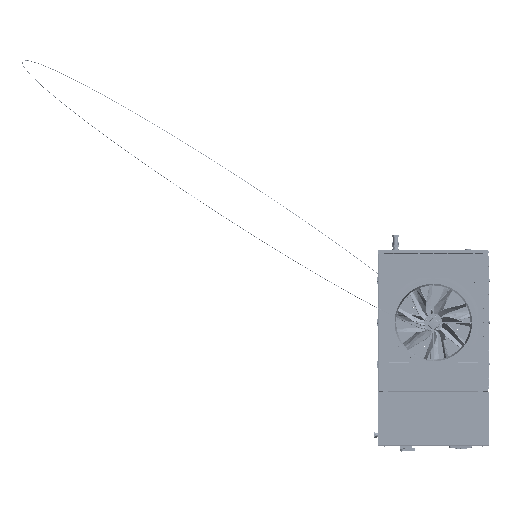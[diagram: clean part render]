
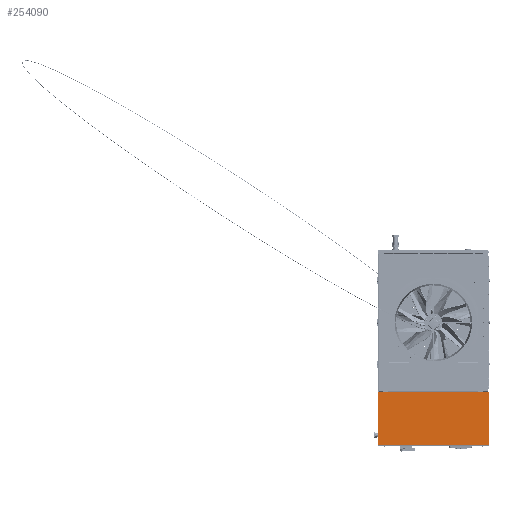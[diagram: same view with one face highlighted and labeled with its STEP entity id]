
A CAD part, top view. The second image highlights one B-rep face of the part: STEP entity #254090.
In plain terms, the highlighted planar face has unit normal (0, 0, 1).
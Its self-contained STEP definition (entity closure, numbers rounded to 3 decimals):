
#10874 = CARTESIAN_POINT ( 'NONE',  ( 530., 285.25, 30. ) ) ;
#11283 = VECTOR ( 'NONE', #112642, 1000. ) ;
#13872 = CARTESIAN_POINT ( 'NONE',  ( -589., 285.25, 30. ) ) ;
#19259 = VERTEX_POINT ( 'NONE', #297432 ) ;
#22216 = LINE ( 'NONE', #414642, #256676 ) ;
#32540 = CARTESIAN_POINT ( 'NONE',  ( -590.5, 285.25, 30. ) ) ;
#51893 = ORIENTED_EDGE ( 'NONE', *, *, #94479, .T. ) ;
#52734 = LINE ( 'NONE', #94014, #88937 ) ;
#59164 = CARTESIAN_POINT ( 'NONE',  ( -589., -285.25, 30. ) ) ;
#71183 = FACE_OUTER_BOUND ( 'NONE', #105744, .T. ) ;
#76461 = CARTESIAN_POINT ( 'NONE',  ( -590.5, 285.25, 30. ) ) ;
#85681 = AXIS2_PLACEMENT_3D ( 'NONE', #32540, #189905, #505027 ) ;
#88937 = VECTOR ( 'NONE', #445296, 1000. ) ;
#94014 = CARTESIAN_POINT ( 'NONE',  ( -590.5, 285.25, 30. ) ) ;
#94479 = EDGE_CURVE ( 'NONE', #449163, #406277, #105056, .T. ) ;
#105056 = LINE ( 'NONE', #115204, #11283 ) ;
#105744 = EDGE_LOOP ( 'NONE', ( #51893, #225645, #187443, #428880, #271919, #280887 ) ) ;
#112642 = DIRECTION ( 'NONE',  ( 1., 0., 0. ) ) ;
#115204 = CARTESIAN_POINT ( 'NONE',  ( -590.5, -285.25, 30. ) ) ;
#123839 = EDGE_CURVE ( 'NONE', #19259, #393494, #52734, .T. ) ;
#145014 = VERTEX_POINT ( 'NONE', #366129 ) ;
#187443 = ORIENTED_EDGE ( 'NONE', *, *, #230662, .F. ) ;
#189905 = DIRECTION ( 'NONE',  ( 0., 0., -1. ) ) ;
#197714 = DIRECTION ( 'NONE',  ( 1., 0., 0. ) ) ;
#200323 = EDGE_CURVE ( 'NONE', #428348, #393494, #289253, .T. ) ;
#225645 = ORIENTED_EDGE ( 'NONE', *, *, #508558, .F. ) ;
#230662 = EDGE_CURVE ( 'NONE', #428348, #145014, #430311, .T. ) ;
#234945 = EDGE_CURVE ( 'NONE', #19259, #449163, #328864, .T. ) ;
#254090 = ADVANCED_FACE ( 'NONE', ( #71183 ), #386297, .F. ) ;
#256676 = VECTOR ( 'NONE', #417196, 1000. ) ;
#271919 = ORIENTED_EDGE ( 'NONE', *, *, #123839, .F. ) ;
#280887 = ORIENTED_EDGE ( 'NONE', *, *, #234945, .T. ) ;
#289253 = LINE ( 'NONE', #395343, #356553 ) ;
#297432 = CARTESIAN_POINT ( 'NONE',  ( -589., 285.25, 30. ) ) ;
#299678 = CARTESIAN_POINT ( 'NONE',  ( -530., 285.25, 30. ) ) ;
#328864 = LINE ( 'NONE', #13872, #461982 ) ;
#356553 = VECTOR ( 'NONE', #444263, 1000. ) ;
#366129 = CARTESIAN_POINT ( 'NONE',  ( 589., 285.25, 30. ) ) ;
#386297 = PLANE ( 'NONE',  #85681 ) ;
#393494 = VERTEX_POINT ( 'NONE', #299678 ) ;
#395343 = CARTESIAN_POINT ( 'NONE',  ( 530., 285.25, 30. ) ) ;
#401955 = VECTOR ( 'NONE', #197714, 1000. ) ;
#406277 = VERTEX_POINT ( 'NONE', #510481 ) ;
#414642 = CARTESIAN_POINT ( 'NONE',  ( 589., 285.25, 30. ) ) ;
#417196 = DIRECTION ( 'NONE',  ( 0., -1., 0. ) ) ;
#428348 = VERTEX_POINT ( 'NONE', #10874 ) ;
#428880 = ORIENTED_EDGE ( 'NONE', *, *, #200323, .T. ) ;
#430311 = LINE ( 'NONE', #76461, #401955 ) ;
#444263 = DIRECTION ( 'NONE',  ( -1., 0., 0. ) ) ;
#445296 = DIRECTION ( 'NONE',  ( 1., 0., 0. ) ) ;
#449163 = VERTEX_POINT ( 'NONE', #59164 ) ;
#461982 = VECTOR ( 'NONE', #486300, 1000. ) ;
#486300 = DIRECTION ( 'NONE',  ( 0., -1., 0. ) ) ;
#505027 = DIRECTION ( 'NONE',  ( 0., -1., 0. ) ) ;
#508558 = EDGE_CURVE ( 'NONE', #145014, #406277, #22216, .T. ) ;
#510481 = CARTESIAN_POINT ( 'NONE',  ( 589., -285.25, 30. ) ) ;
